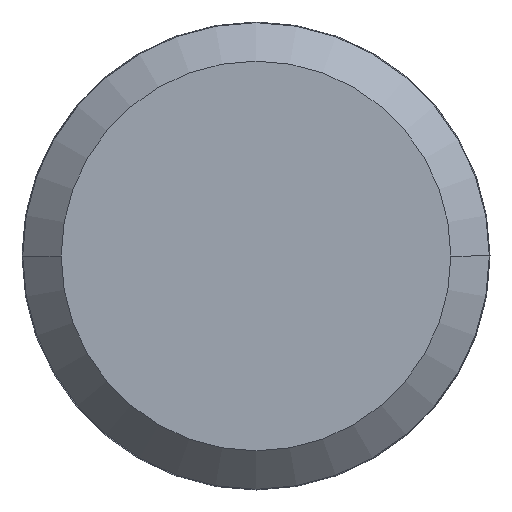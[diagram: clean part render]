
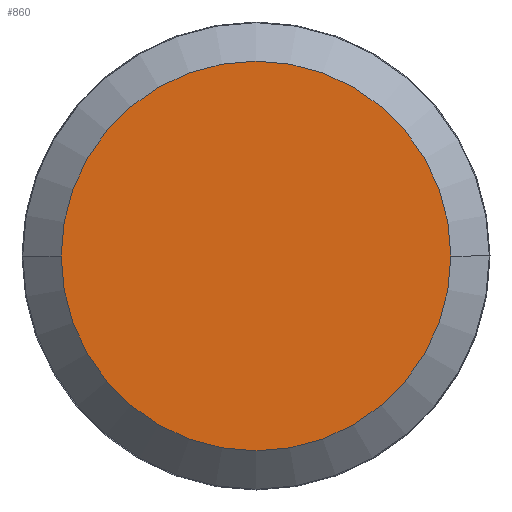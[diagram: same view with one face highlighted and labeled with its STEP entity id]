
A CAD part, left-side view. The second image highlights one B-rep face of the part: STEP entity #860.
In plain terms, the highlighted planar face has unit normal (-1, 0, 0) as drawn and (0, 0, 1) by its records, which use the part's own axes.
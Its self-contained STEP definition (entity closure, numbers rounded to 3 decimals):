
#9 = AXIS2_PLACEMENT_3D ( 'NONE', #7784, #5714, #6339 ) ;
#860 = ADVANCED_FACE ( 'NONE', ( #2678 ), #8182, .T. ) ;
#1034 = VERTEX_POINT ( 'NONE', #8717 ) ;
#2293 = ORIENTED_EDGE ( 'NONE', *, *, #5614, .T. ) ;
#2606 = EDGE_LOOP ( 'NONE', ( #2293, #8605 ) ) ;
#2678 = FACE_OUTER_BOUND ( 'NONE', #2606, .T. ) ;
#2788 = CARTESIAN_POINT ( 'NONE',  ( 0., 0., 3.075 ) ) ;
#4728 = DIRECTION ( 'NONE',  ( 0., 0., 1. ) ) ;
#4814 = AXIS2_PLACEMENT_3D ( 'NONE', #2788, #4728, #4861 ) ;
#4861 = DIRECTION ( 'NONE',  ( 1., 0., 0. ) ) ;
#4901 = CIRCLE ( 'NONE', #9, 7.869 ) ;
#5058 = DIRECTION ( 'NONE',  ( 0., 0., 1. ) ) ;
#5614 = EDGE_CURVE ( 'NONE', #1034, #8538, #4901, .T. ) ;
#5714 = DIRECTION ( 'NONE',  ( 0., 0., 1. ) ) ;
#6339 = DIRECTION ( 'NONE',  ( 1., 0., 0. ) ) ;
#6546 = CIRCLE ( 'NONE', #4814, 7.869 ) ;
#7498 = CARTESIAN_POINT ( 'NONE',  ( 0., 0., 3.075 ) ) ;
#7784 = CARTESIAN_POINT ( 'NONE',  ( 0., 0., 3.075 ) ) ;
#7809 = AXIS2_PLACEMENT_3D ( 'NONE', #7498, #5058, #8406 ) ;
#7843 = EDGE_CURVE ( 'NONE', #8538, #1034, #6546, .T. ) ;
#8182 = PLANE ( 'NONE',  #7809 ) ;
#8406 = DIRECTION ( 'NONE',  ( 1., 0., 0. ) ) ;
#8538 = VERTEX_POINT ( 'NONE', #8854 ) ;
#8605 = ORIENTED_EDGE ( 'NONE', *, *, #7843, .T. ) ;
#8717 = CARTESIAN_POINT ( 'NONE',  ( -7.869, 0., 3.075 ) ) ;
#8854 = CARTESIAN_POINT ( 'NONE',  ( 7.869, 0., 3.075 ) ) ;
